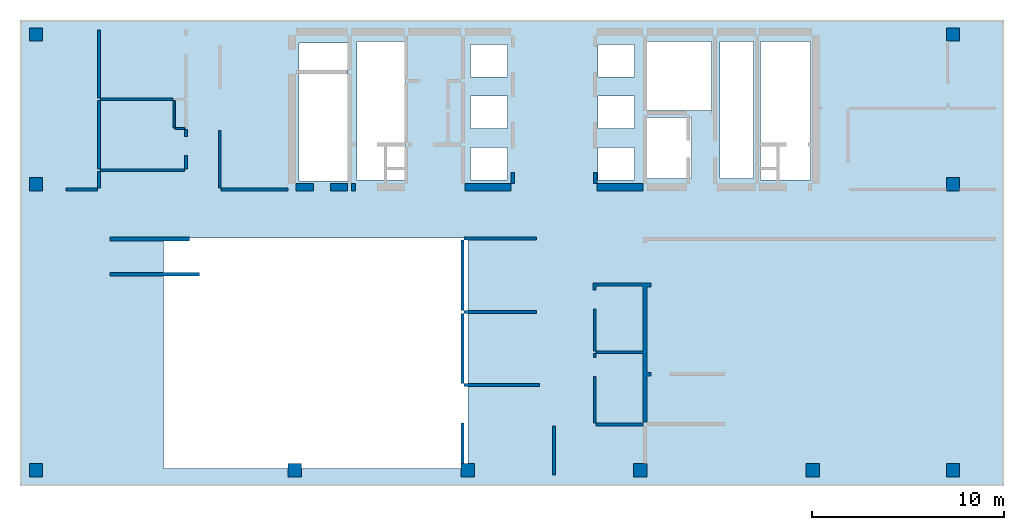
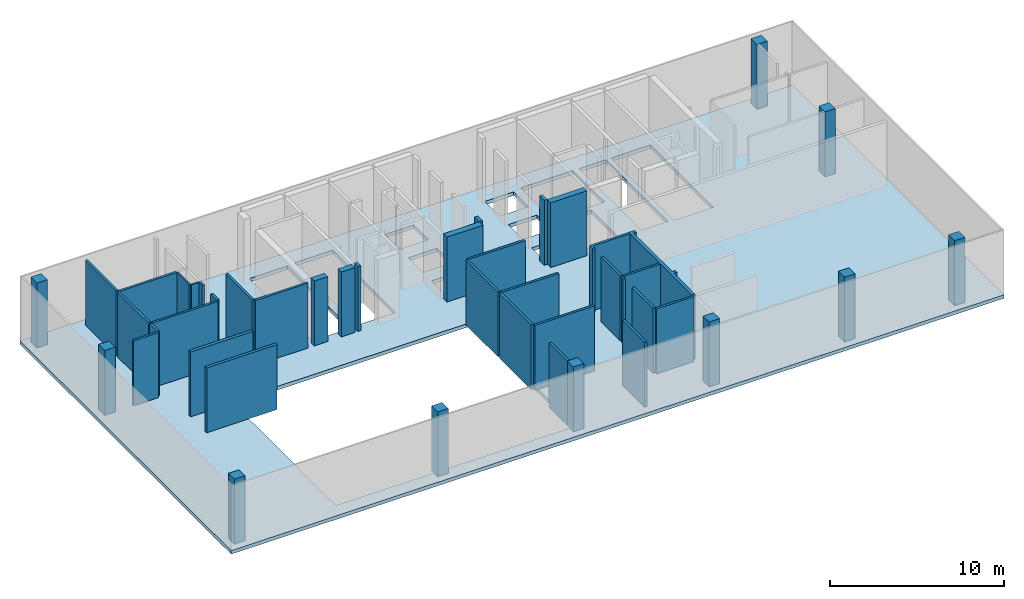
# One storey, part 1 of 4: 33 walls, 10 columns, 1 slab.
"""IFC4 building model written with IfcOpenShell, lengths in millimetres."""

from ifc_helpers import new_model, si_unit, frame, origin, place, context, project, spatial, triangles, element, save


model = new_model("IFC4")

# Units and contexts
model_context = context("Model", 3, precision=0.001, world=origin())
ifc_project = project(units=[si_unit("LENGTHUNIT", "METRE", prefix="MILLI"), si_unit("AREAUNIT", "SQUARE_METRE"), si_unit("VOLUMEUNIT", "CUBIC_METRE")], contexts=[model_context])

# Site, building, storey
site_placement = place(None, origin())
site = spatial("IfcSite", under=ifc_project, at=site_placement, Name="Site", CompositionType="ELEMENT")
building_placement = place(site_placement, origin())
building = spatial("IfcBuilding", under=site, at=building_placement, Name="INNOCEAN", CompositionType="ELEMENT")
storey_placement = place(building_placement, frame((0.0, 0.0, 15800.0)))
storey = spatial("IfcBuildingStorey", under=building, at=storey_placement, Name="F04", CompositionType="ELEMENT", Elevation=15800.0)

# Columns
column_1_placement = place(storey_placement, origin())
element("IfcColumn", 1, at=column_1_placement, inside=storey, Name="F04_Columns_F04_001", context=model_context, shape_type="Tessellation", body=[
    triangles([(40114.8, 2023.7, 0.0), (40114.8, 2722.3, 4550.0), (40114.8, 2722.3, 0.0), (40114.8, 2023.7, 4550.0), (40813.0, 2722.3, 4550.0), (40813.0, 2023.7, 0.0), (40813.0, 2722.3, 0.0), (40813.0, 2023.7, 4550.0)], [[1, 2, 3], [1, 4, 2], [5, 6, 7], [8, 6, 5], [6, 8, 1], [1, 8, 4], [5, 7, 3], [5, 3, 2], [3, 7, 1], [1, 7, 6], [5, 2, 4], [5, 4, 8]], closed=True),
])
column_2_placement = place(storey_placement, origin())
element("IfcColumn", 2, at=column_2_placement, inside=storey, Name="F04_Columns_F04_002", context=model_context, shape_type="Tessellation", body=[
    triangles([(47413.4, 24721.0, 0.0), (47413.4, 24721.0, 4550.0), (47413.4, 25419.5, 0.0), (47413.4, 25419.5, 4550.0), (48111.6, 24721.0, 4550.0), (48111.6, 24721.0, 0.0), (48111.6, 25419.5, 0.0), (48111.6, 25419.5, 4550.0)], [[1, 2, 3], [3, 2, 4], [5, 6, 7], [5, 7, 8], [6, 5, 1], [1, 5, 2], [8, 7, 3], [8, 3, 4], [1, 3, 6], [3, 7, 6], [4, 2, 5], [8, 4, 5]], closed=True),
])
column_3_placement = place(storey_placement, origin())
element("IfcColumn", 3, at=column_3_placement, inside=storey, Name="F04_Columns_F04_003", context=model_context, shape_type="Tessellation", body=[
    triangles([(47413.4, 16922.4, 0.0), (47413.4, 16922.4, 4550.0), (47413.4, 17620.9, 0.0), (47413.4, 17620.9, 4550.0), (48111.6, 16922.4, 4550.0), (48111.6, 16922.4, 0.0), (48111.6, 17620.9, 0.0), (48111.6, 17620.9, 4550.0)], [[1, 2, 3], [3, 2, 4], [5, 6, 7], [5, 7, 8], [6, 5, 1], [1, 5, 2], [8, 7, 3], [8, 3, 4], [1, 3, 6], [3, 7, 6], [4, 2, 5], [8, 4, 5]], closed=True),
])
column_4_placement = place(storey_placement, origin())
element("IfcColumn", 4, at=column_4_placement, inside=storey, Name="F04_Columns_F04_004", context=model_context, shape_type="Tessellation", body=[
    triangles([(13129.0, 2023.7, 0.0), (13129.0, 2722.3, 4550.0), (13129.0, 2722.3, 0.0), (13129.0, 2023.7, 4550.0), (13827.2, 2722.3, 4550.0), (13827.2, 2023.7, 0.0), (13827.2, 2722.3, 0.0), (13827.2, 2023.7, 4550.0)], [[1, 2, 3], [1, 4, 2], [5, 6, 7], [8, 6, 5], [6, 8, 1], [1, 8, 4], [5, 7, 3], [5, 3, 2], [3, 7, 1], [1, 7, 6], [5, 2, 4], [5, 4, 8]], closed=True),
])
column_5_placement = place(storey_placement, origin())
element("IfcColumn", 5, at=column_5_placement, inside=storey, Name="F04_Columns_F04_005", context=model_context, shape_type="Tessellation", body=[
    triangles([(47413.4, 2023.7, 0.0), (47413.4, 2722.3, 4550.0), (47413.4, 2722.3, 0.0), (47413.4, 2023.7, 4550.0), (48111.6, 2722.3, 4550.0), (48111.6, 2023.7, 0.0), (48111.6, 2722.3, 0.0), (48111.6, 2023.7, 4550.0)], [[1, 2, 3], [1, 4, 2], [5, 6, 7], [8, 6, 5], [6, 8, 1], [1, 8, 4], [5, 7, 3], [5, 3, 2], [3, 7, 1], [1, 7, 6], [5, 2, 4], [5, 4, 8]], closed=True),
])
column_6_placement = place(storey_placement, origin())
element("IfcColumn", 6, at=column_6_placement, inside=storey, Name="F04_Columns_F04_006", context=model_context, shape_type="Tessellation", body=[
    triangles([(-363.9, 2023.7, 0.0), (-363.9, 2722.3, 4550.0), (-363.9, 2722.3, 0.0), (-363.9, 2023.7, 4550.0), (334.3, 2722.3, 4550.0), (334.3, 2023.7, 0.0), (334.3, 2722.3, 0.0), (334.3, 2023.7, 4550.0)], [[1, 2, 3], [1, 4, 2], [5, 6, 7], [8, 6, 5], [6, 8, 1], [1, 8, 4], [5, 7, 3], [5, 3, 2], [3, 7, 1], [1, 7, 6], [5, 2, 4], [5, 4, 8]], closed=True),
])
column_7_placement = place(storey_placement, origin())
element("IfcColumn", 7, at=column_7_placement, inside=storey, Name="F04_Columns_F04_007", context=model_context, shape_type="Tessellation", body=[
    triangles([(-363.9, 24721.0, 0.0), (-363.9, 24721.0, 4550.0), (-363.9, 25419.5, 0.0), (-363.9, 25419.5, 4550.0), (334.3, 24721.0, 4550.0), (334.3, 24721.0, 0.0), (334.3, 25419.5, 0.0), (334.3, 25419.5, 4550.0)], [[1, 2, 3], [3, 2, 4], [5, 6, 7], [5, 7, 8], [6, 5, 1], [1, 5, 2], [8, 7, 3], [8, 3, 4], [3, 7, 1], [1, 7, 6], [8, 4, 2], [8, 2, 5]], closed=True),
])
column_8_placement = place(storey_placement, origin())
element("IfcColumn", 8, at=column_8_placement, inside=storey, Name="F04_Columns_F04_008", context=model_context, shape_type="Tessellation", body=[
    triangles([(31128.0, 2023.7, 0.0), (31128.0, 2722.3, 4550.0), (31128.0, 2722.3, 0.0), (31128.0, 2023.7, 4550.0), (31826.2, 2722.3, 4550.0), (31826.2, 2023.7, 0.0), (31826.2, 2722.3, 0.0), (31826.2, 2023.7, 4550.0)], [[1, 2, 3], [1, 4, 2], [5, 6, 7], [8, 6, 5], [6, 8, 1], [1, 8, 4], [5, 7, 3], [5, 3, 2], [3, 7, 1], [1, 7, 6], [5, 2, 4], [5, 4, 8]], closed=True),
])
column_9_placement = place(storey_placement, origin())
element("IfcColumn", 9, at=column_9_placement, inside=storey, Name="F04_Columns_F04_009", context=model_context, shape_type="Tessellation", body=[
    triangles([(22128.5, 2023.7, 0.0), (22128.5, 2722.3, 4550.0), (22128.5, 2722.3, 0.0), (22128.5, 2023.7, 4550.0), (22826.7, 2722.3, 4550.0), (22826.7, 2023.7, 0.0), (22826.7, 2722.3, 0.0), (22826.7, 2023.7, 4550.0)], [[1, 2, 3], [1, 4, 2], [5, 6, 7], [8, 6, 5], [6, 8, 1], [1, 8, 4], [5, 7, 3], [5, 3, 2], [3, 7, 1], [1, 7, 6], [5, 2, 4], [5, 4, 8]], closed=True),
])
column_10_placement = place(storey_placement, origin())
element("IfcColumn", 10, at=column_10_placement, inside=storey, Name="F04_Columns_F04_010", context=model_context, shape_type="Tessellation", body=[
    triangles([(-363.9, 16922.4, 0.0), (-363.9, 16922.4, 4550.0), (-363.9, 17620.9, 0.0), (-363.9, 17620.9, 4550.0), (334.3, 16922.4, 4550.0), (334.3, 16922.4, 0.0), (334.3, 17620.9, 0.0), (334.3, 17620.9, 4550.0)], [[1, 2, 3], [3, 2, 4], [5, 6, 7], [5, 7, 8], [6, 5, 1], [1, 5, 2], [8, 7, 3], [8, 3, 4], [3, 7, 1], [1, 7, 6], [8, 4, 2], [8, 2, 5]], closed=True),
])

# Slab
slab_placement = place(storey_placement, origin())
element("IfcSlab", 11, at=slab_placement, inside=storey, Name="F04_Slab_F04_001", context=model_context, shape_type="Tessellation", body=[
    triangles([(-846.215139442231, 25825.974025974, 0.0), (50420.3187250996, 25825.974025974, -250.0), (-846.215139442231, 25825.974025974, -250.0), (50420.3187250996, 25825.974025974, 0.0), (-846.215139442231, 1552.38095238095, 0.0), (-846.215139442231, 1552.38095238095, -250.0), (50420.3187250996, 1552.38095238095, 0.0), (50420.3187250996, 1552.38095238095, -250.0), (22495.219123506, 14465.367965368, 0.0), (6628.68525896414, 14465.367965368, 0.0), (6628.68525896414, 14465.367965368, -250.0), (22495.219123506, 14465.367965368, -250.0), (22495.219123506, 2469.69696969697, 0.0), (22495.219123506, 2469.69696969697, -250.0), (6628.68525896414, 2469.69696969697, -250.0), (6628.68525896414, 2469.69696969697, 0.0), (31168.9243027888, 19193.0735930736, 0.0), (29264.9402390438, 19193.0735930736, 0.0), (29264.9402390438, 19193.0735930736, -250.0), (31168.9243027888, 19193.0735930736, -250.0), (29264.9402390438, 17499.5670995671, 0.0), (29264.9402390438, 17499.5670995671, -250.0), (31168.9243027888, 17499.5670995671, 0.0), (31168.9243027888, 17499.5670995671, -250.0), (24540.2390438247, 19193.0735930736, -250.0), (22636.2549800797, 19193.0735930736, 0.0), (22636.2549800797, 19193.0735930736, -250.0), (24540.2390438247, 19193.0735930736, 0.0), (22636.2549800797, 17499.5670995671, 0.0), (22636.2549800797, 17499.5670995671, -250.0), (24540.2390438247, 17499.5670995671, 0.0), (24540.2390438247, 17499.5670995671, -250.0), (40336.2549800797, 24696.9696969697, -250.0), (37727.0916334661, 24696.9696969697, 0.0), (37727.0916334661, 24696.9696969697, -250.0), (40336.2549800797, 24696.9696969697, 0.0), (37727.0916334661, 17499.5670995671, 0.0), (37727.0916334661, 17499.5670995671, -250.0), (40336.2549800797, 17499.5670995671, 0.0), (40336.2549800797, 17499.5670995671, -250.0), (37374.5019920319, 24696.9696969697, 0.0), (35611.5537848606, 24696.9696969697, 0.0), (35611.5537848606, 24696.9696969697, -250.0), (37374.5019920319, 24696.9696969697, -250.0), (35611.5537848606, 17570.1298701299, 0.0), (35611.5537848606, 17570.1298701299, -250.0), (37374.5019920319, 17570.1298701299, 0.0), (37374.5019920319, 17570.1298701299, -250.0), (34130.6772908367, 20745.4545454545, -250.0), (31733.0677290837, 20745.4545454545, 0.0), (31733.0677290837, 20745.4545454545, -250.0), (34130.6772908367, 20745.4545454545, 0.0), (31733.0677290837, 17570.1298701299, 0.0), (31733.0677290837, 17570.1298701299, -250.0), (34130.6772908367, 17570.1298701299, 0.0), (34130.6772908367, 17570.1298701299, -250.0), (35188.4462151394, 24696.9696969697, 0.0), (31733.0677290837, 24696.9696969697, 0.0), (31733.0677290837, 24696.9696969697, -250.0), (35188.4462151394, 24696.9696969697, -250.0), (31733.0677290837, 21098.2683982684, 0.0), (31733.0677290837, 21098.2683982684, -250.0), (35188.4462151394, 21098.2683982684, 0.0), (35188.4462151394, 21098.2683982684, -250.0), (31168.9243027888, 21874.4588744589, 0.0), (29264.9402390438, 21874.4588744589, 0.0), (29264.9402390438, 21874.4588744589, -250.0), (31168.9243027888, 21874.4588744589, -250.0), (29264.9402390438, 20180.9523809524, 0.0), (29264.9402390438, 20180.9523809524, -250.0), (31168.9243027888, 20180.9523809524, 0.0), (31168.9243027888, 20180.9523809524, -250.0), (24540.2390438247, 21874.4588744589, -250.0), (22636.2549800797, 21874.4588744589, 0.0), (22636.2549800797, 21874.4588744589, -250.0), (24540.2390438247, 21874.4588744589, 0.0), (22636.2549800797, 20180.9523809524, 0.0), (22636.2549800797, 20180.9523809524, -250.0), (24540.2390438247, 20180.9523809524, 0.0), (24540.2390438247, 20180.9523809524, -250.0), (31168.9243027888, 24555.8441558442, 0.0), (29264.9402390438, 24555.8441558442, 0.0), (29264.9402390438, 24555.8441558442, -250.0), (31168.9243027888, 24555.8441558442, -250.0), (29264.9402390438, 22862.3376623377, 0.0), (29264.9402390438, 22862.3376623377, -250.0), (31168.9243027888, 22862.3376623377, 0.0), (31168.9243027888, 22862.3376623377, -250.0), (24540.2390438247, 24555.8441558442, -250.0), (22636.2549800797, 24555.8441558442, 0.0), (22636.2549800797, 24555.8441558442, -250.0), (24540.2390438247, 24555.8441558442, 0.0), (22636.2549800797, 22862.3376623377, 0.0), (22636.2549800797, 22862.3376623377, -250.0), (24540.2390438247, 22862.3376623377, 0.0), (24540.2390438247, 22862.3376623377, -250.0), (19251.3944223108, 24696.9696969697, 0.0), (16712.7490039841, 24696.9696969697, 0.0), (16712.7490039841, 24696.9696969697, -250.0), (19251.3944223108, 24696.9696969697, -250.0), (16712.7490039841, 17499.5670995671, 0.0), (16712.7490039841, 17499.5670995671, -250.0), (19251.3944223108, 17499.5670995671, 0.0), (19251.3944223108, 17499.5670995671, -250.0), (16219.1235059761, 24626.4069264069, 0.0), (13680.4780876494, 24626.4069264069, 0.0), (13680.4780876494, 24626.4069264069, -250.0), (16219.1235059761, 24626.4069264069, -250.0), (13680.4780876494, 17429.0043290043, 0.0), (13680.4780876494, 17429.0043290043, -250.0), (16219.1235059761, 17429.0043290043, 0.0), (16219.1235059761, 17429.0043290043, -250.0)], [[1, 2, 3], [1, 4, 2], [5, 1, 6], [6, 1, 3], [4, 7, 2], [2, 7, 8], [7, 6, 8], [7, 5, 6], [9, 10, 11], [9, 11, 12], [13, 9, 12], [13, 12, 14], [15, 13, 14], [16, 13, 15], [10, 16, 15], [10, 15, 11], [17, 18, 19], [17, 19, 20], [18, 21, 22], [18, 22, 19], [23, 17, 20], [23, 20, 24], [21, 23, 24], [21, 24, 22], [25, 26, 27], [28, 26, 25], [26, 29, 30], [26, 30, 27], [31, 28, 25], [31, 25, 32], [30, 31, 32], [29, 31, 30], [33, 34, 35], [36, 34, 33], [34, 37, 38], [34, 38, 35], [39, 36, 33], [39, 33, 40], [38, 39, 40], [37, 39, 38], [41, 42, 43], [41, 43, 44], [42, 45, 46], [42, 46, 43], [47, 41, 44], [47, 44, 48], [45, 47, 48], [45, 48, 46], [49, 50, 51], [52, 50, 49], [50, 53, 54], [50, 54, 51], [55, 52, 49], [55, 49, 56], [54, 55, 56], [53, 55, 54], [57, 58, 59], [57, 59, 60], [58, 61, 62], [58, 62, 59], [63, 57, 60], [63, 60, 64], [61, 63, 64], [61, 64, 62], [65, 66, 67], [65, 67, 68], [66, 69, 70], [66, 70, 67], [71, 65, 68], [71, 68, 72], [69, 71, 72], [69, 72, 70], [73, 74, 75], [76, 74, 73], [74, 77, 78], [74, 78, 75], [79, 76, 73], [79, 73, 80], [78, 79, 80], [77, 79, 78], [81, 82, 83], [81, 83, 84], [82, 85, 86], [82, 86, 83], [87, 81, 84], [87, 84, 88], [85, 87, 88], [85, 88, 86], [89, 90, 91], [92, 90, 89], [90, 93, 94], [90, 94, 91], [95, 92, 89], [95, 89, 96], [94, 95, 96], [93, 95, 94], [97, 98, 99], [97, 99, 100], [98, 101, 102], [98, 102, 99], [103, 97, 100], [103, 100, 104], [101, 103, 104], [101, 104, 102], [105, 106, 107], [105, 107, 108], [106, 109, 110], [106, 110, 107], [111, 105, 108], [111, 108, 112], [109, 111, 112], [109, 112, 110], [4, 39, 7], [39, 37, 7], [37, 13, 7], [47, 45, 37], [37, 45, 13], [45, 55, 13], [4, 36, 39], [55, 53, 13], [53, 23, 13], [45, 52, 55], [63, 52, 45], [53, 17, 23], [23, 21, 13], [17, 50, 71], [52, 61, 50], [50, 61, 71], [42, 57, 63], [71, 18, 17], [61, 65, 71], [71, 69, 18], [61, 87, 65], [21, 9, 13], [21, 31, 9], [58, 81, 87], [87, 85, 65], [65, 85, 66], [18, 28, 21], [69, 28, 18], [21, 28, 31], [31, 29, 9], [58, 82, 81], [69, 79, 28], [66, 79, 69], [66, 76, 79], [28, 77, 26], [79, 77, 28], [26, 103, 29], [29, 103, 9], [77, 103, 26], [85, 95, 66], [66, 95, 76], [77, 74, 103], [95, 74, 76], [85, 92, 95], [82, 92, 85], [95, 93, 74], [103, 101, 9], [101, 111, 9], [16, 5, 13], [90, 97, 93], [74, 97, 103], [93, 97, 74], [16, 10, 5], [98, 105, 101], [101, 105, 111], [98, 106, 105], [109, 106, 10], [10, 1, 5], [106, 1, 10], [4, 1, 36], [36, 1, 34], [34, 1, 41], [41, 1, 42], [42, 1, 57], [57, 1, 58], [58, 1, 82], [82, 1, 92], [92, 1, 90], [90, 1, 97], [97, 1, 98], [98, 1, 106], [5, 7, 13], [10, 9, 109], [109, 9, 111], [45, 42, 63], [41, 47, 34], [34, 47, 37], [53, 50, 17], [61, 58, 87], [63, 61, 52], [40, 2, 8], [38, 40, 8], [14, 38, 8], [46, 48, 38], [46, 38, 14], [56, 46, 14], [33, 2, 40], [54, 56, 14], [24, 54, 14], [49, 46, 56], [49, 64, 46], [20, 54, 24], [22, 24, 14], [51, 20, 72], [62, 49, 51], [62, 51, 72], [60, 43, 64], [19, 72, 20], [68, 62, 72], [70, 72, 19], [88, 62, 68], [12, 22, 14], [32, 22, 12], [84, 59, 88], [86, 88, 68], [86, 68, 67], [25, 19, 22], [25, 70, 19], [25, 22, 32], [30, 32, 12], [83, 59, 84], [80, 70, 25], [80, 67, 70], [73, 67, 80], [78, 25, 27], [78, 80, 25], [104, 27, 30], [104, 30, 12], [104, 78, 27], [96, 86, 67], [96, 67, 73], [75, 78, 104], [75, 96, 73], [89, 86, 96], [89, 83, 86], [94, 96, 75], [102, 104, 12], [112, 102, 12], [6, 15, 14], [100, 91, 94], [100, 75, 104], [100, 94, 75], [11, 15, 6], [108, 99, 102], [108, 102, 112], [107, 99, 108], [107, 110, 11], [3, 11, 6], [3, 107, 11], [3, 2, 33], [3, 33, 35], [3, 35, 44], [3, 44, 43], [3, 43, 60], [3, 60, 59], [3, 59, 83], [3, 83, 89], [3, 89, 91], [3, 91, 100], [3, 100, 99], [3, 99, 107], [8, 6, 14], [12, 11, 110], [12, 110, 112], [43, 46, 64], [48, 44, 35], [48, 35, 38], [51, 54, 20], [59, 62, 88], [62, 64, 49]], closed=True),
])

# Walls
wall_1_placement = place(storey_placement, origin())
element("IfcWall", 12, at=wall_1_placement, inside=storey, Name="F04_Walls_F04_001", context=model_context, shape_type="Tessellation", body=[
    triangles([(8508.7, 12476.9, 0.0), (8508.7, 12667.4, 0.0), (8508.7, 12667.4, 4550.0), (8508.7, 12476.9, 4550.0), (3837.6, 12476.9, 0.0), (3837.6, 12476.9, 4550.0), (3837.6, 12667.4, 0.0), (3837.6, 12667.4, 4550.0)], [[1, 2, 3], [1, 3, 4], [5, 1, 4], [5, 4, 6], [7, 5, 6], [7, 6, 8], [2, 7, 8], [2, 8, 3], [5, 2, 1], [7, 2, 5], [3, 6, 4], [3, 8, 6]], closed=True),
])
wall_2_placement = place(storey_placement, origin())
element("IfcWall", 13, at=wall_2_placement, inside=storey, Name="F04_Walls_F04_002", context=model_context, shape_type="Tessellation", body=[
    triangles([(7975.6, 14318.6, 0.0), (7975.6, 14521.8, 0.0), (7975.6, 14521.8, 4550.0), (7975.6, 14318.6, 4550.0), (3837.6, 14318.6, 0.0), (3837.6, 14318.6, 4550.0), (3837.6, 14521.8, 0.0), (3837.6, 14521.8, 4550.0)], [[1, 2, 3], [1, 3, 4], [5, 1, 4], [5, 4, 6], [7, 5, 6], [7, 6, 8], [2, 7, 8], [2, 8, 3], [7, 2, 1], [7, 1, 5], [3, 8, 4], [4, 8, 6]], closed=True),
])
wall_3_placement = place(storey_placement, origin())
element("IfcWall", 14, at=wall_3_placement, inside=storey, Name="F04_Walls_F04_003", context=model_context, shape_type="Tessellation", body=[
    triangles([(3190.2, 16922.4, 0.0), (3190.2, 17074.8, 0.0), (3190.2, 17074.8, 4550.0), (3190.2, 16922.4, 4550.0), (1552.8, 16922.4, 0.0), (1552.8, 16922.4, 4550.0), (1552.8, 17074.8, 0.0), (1552.8, 17074.8, 4550.0)], [[1, 2, 3], [1, 3, 4], [5, 1, 4], [5, 4, 6], [7, 5, 6], [7, 6, 8], [2, 7, 8], [2, 8, 3], [5, 2, 1], [7, 2, 5], [3, 6, 4], [3, 8, 6]], closed=True),
])
wall_4_placement = place(storey_placement, origin())
element("IfcWall", 15, at=wall_4_placement, inside=storey, Name="F04_Walls_F04_004", context=model_context, shape_type="Tessellation", body=[
    triangles([(13129.0, 16922.4, 0.0), (13129.0, 17074.8, 0.0), (13129.0, 17074.8, 4550.0), (13129.0, 16922.4, 4550.0), (9638.4, 16922.4, 0.0), (9638.4, 16922.4, 4550.0), (9638.4, 17074.8, 0.0), (9638.4, 17074.8, 4550.0)], [[1, 2, 3], [1, 3, 4], [5, 1, 4], [5, 4, 6], [7, 5, 6], [7, 6, 8], [2, 7, 8], [2, 8, 3], [7, 2, 1], [7, 1, 5], [3, 8, 4], [4, 8, 6]], closed=True),
])
wall_5_placement = place(storey_placement, origin())
element("IfcWall", 16, at=wall_5_placement, inside=storey, Name="F04_Walls_F04_005", context=model_context, shape_type="Tessellation", body=[
    triangles([(14436.4, 16922.4, 0.0), (14436.4, 17316.1, 0.0), (14436.4, 17316.1, 4550.0), (14436.4, 16922.4, 4550.0), (13535.2, 16922.4, 4550.0), (13535.2, 16922.4, 0.0), (13535.2, 17316.1, 0.0), (13535.2, 17316.1, 4550.0)], [[1, 2, 3], [1, 3, 4], [1, 4, 5], [6, 1, 5], [7, 6, 5], [7, 5, 8], [7, 8, 3], [2, 7, 3], [7, 2, 1], [7, 1, 6], [3, 8, 4], [4, 8, 5]], closed=True),
])
wall_6_placement = place(storey_placement, origin())
element("IfcWall", 17, at=wall_6_placement, inside=storey, Name="F04_Walls_F04_006", context=model_context, shape_type="Tessellation", body=[
    triangles([(16226.2, 16922.4, 0.0), (16226.2, 17316.1, 0.0), (16226.2, 17316.1, 4550.0), (16226.2, 16922.4, 4550.0), (15337.6, 16922.4, 0.0), (15337.6, 16922.4, 4550.0), (15337.6, 17316.1, 0.0), (15337.6, 17316.1, 4550.0)], [[1, 2, 3], [1, 3, 4], [5, 1, 4], [5, 4, 6], [7, 5, 6], [7, 6, 8], [2, 7, 8], [2, 8, 3], [7, 2, 1], [7, 1, 5], [3, 8, 4], [4, 8, 6]], closed=True),
])
wall_7_placement = place(storey_placement, origin())
element("IfcWall", 18, at=wall_7_placement, inside=storey, Name="F04_Walls_F04_007", context=model_context, shape_type="Tessellation", body=[
    triangles([(16632.4, 16922.4, 0.0), (16632.4, 17316.1, 0.0), (16632.4, 17316.1, 4550.0), (16632.4, 16922.4, 4550.0), (16429.3, 16922.4, 0.0), (16429.3, 16922.4, 4550.0), (16429.3, 17316.1, 0.0), (16429.3, 17316.1, 4550.0)], [[1, 2, 3], [1, 3, 4], [5, 1, 4], [5, 4, 6], [7, 5, 6], [7, 6, 8], [2, 7, 8], [2, 8, 3], [7, 2, 1], [7, 1, 5], [3, 8, 4], [4, 8, 6]], closed=True),
])
wall_8_placement = place(storey_placement, origin())
element("IfcWall", 19, at=wall_8_placement, inside=storey, Name="F04_Walls_F04_008", context=model_context, shape_type="Tessellation", body=[
    triangles([(3342.5, 17074.8, 0.0), (3342.5, 17925.8, 0.0), (3342.5, 17925.8, 4550.0), (3342.5, 17074.8, 4550.0), (3190.2, 17074.8, 0.0), (3190.2, 17074.8, 4550.0), (3190.2, 17925.8, 0.0), (3190.2, 17925.8, 4550.0)], [[1, 2, 3], [1, 3, 4], [5, 1, 4], [5, 4, 6], [7, 5, 6], [7, 6, 8], [2, 7, 8], [2, 8, 3], [7, 2, 1], [7, 1, 5], [3, 8, 4], [4, 8, 6]], closed=True),
])
wall_9_placement = place(storey_placement, origin())
element("IfcWall", 20, at=wall_9_placement, inside=storey, Name="F04_Walls_F04_009", context=model_context, shape_type="Tessellation", body=[
    triangles([(7734.4, 17925.8, 0.0), (7734.4, 18065.5, 0.0), (7734.4, 18065.5, 4550.0), (7734.4, 17925.8, 4550.0), (3342.5, 17925.8, 4550.0), (3342.5, 17925.8, 0.0), (3342.5, 18065.5, 0.0), (3342.5, 18065.5, 4550.0)], [[1, 2, 3], [1, 3, 4], [1, 4, 5], [6, 1, 5], [7, 6, 5], [7, 5, 8], [7, 8, 3], [2, 7, 3], [6, 2, 1], [7, 2, 6], [3, 5, 4], [3, 8, 5]], closed=True),
])
wall_10_placement = place(storey_placement, origin())
element("IfcWall", 21, at=wall_10_placement, inside=storey, Name="F04_Walls_F04_011", context=model_context, shape_type="Tessellation", body=[
    triangles([(7886.7, 18065.5, 0.0), (7886.7, 18776.8, 0.0), (7886.7, 18776.8, 4550.0), (7886.7, 18065.5, 4550.0), (7734.4, 18065.5, 0.0), (7734.4, 18065.5, 4550.0), (7734.4, 18776.8, 0.0), (7734.4, 18776.8, 4550.0)], [[1, 2, 3], [1, 3, 4], [5, 1, 4], [5, 4, 6], [7, 5, 6], [7, 6, 8], [2, 7, 8], [2, 8, 3], [2, 1, 5], [7, 2, 5], [4, 3, 6], [3, 8, 6]], closed=True),
])
wall_11_placement = place(storey_placement, origin())
element("IfcWall", 22, at=wall_11_placement, inside=storey, Name="F04_Walls_F04_012", context=model_context, shape_type="Tessellation", body=[
    triangles([(9638.4, 17074.8, 0.0), (9638.4, 20072.3, 0.0), (9638.4, 20072.3, 4550.0), (9638.4, 17074.8, 4550.0), (9486.1, 17074.8, 0.0), (9486.1, 17074.8, 4550.0), (9486.1, 20072.3, 0.0), (9486.1, 20072.3, 4550.0)], [[1, 2, 3], [1, 3, 4], [5, 1, 4], [5, 4, 6], [7, 5, 6], [7, 6, 8], [2, 7, 8], [2, 8, 3], [7, 2, 1], [7, 1, 5], [3, 8, 4], [4, 8, 6]], closed=True),
])
wall_12_placement = place(storey_placement, origin())
element("IfcWall", 23, at=wall_12_placement, inside=storey, Name="F04_Walls_F04_013", context=model_context, shape_type="Tessellation", body=[
    triangles([(3342.5, 18065.5, 0.0), (3342.5, 21621.8, 0.0), (3342.5, 21621.8, 4550.0), (3342.5, 18065.5, 4550.0), (3190.2, 18065.5, 0.0), (3190.2, 18065.5, 4550.0), (3190.2, 21621.8, 0.0), (3190.2, 21621.8, 4550.0)], [[1, 2, 3], [1, 3, 4], [5, 1, 4], [5, 4, 6], [7, 5, 6], [7, 6, 8], [2, 7, 8], [2, 8, 3], [7, 2, 1], [7, 1, 5], [3, 8, 4], [4, 8, 6]], closed=True),
])
wall_13_placement = place(storey_placement, origin())
element("IfcWall", 24, at=wall_13_placement, inside=storey, Name="F04_Walls_F04_014", context=model_context, shape_type="Tessellation", body=[
    triangles([(7886.7, 20123.1, 0.0), (7886.7, 20123.1, 4550.0), (7886.7, 19767.5, 4550.0), (7886.7, 19767.5, 0.0), (7734.4, 19767.5, 0.0), (7734.4, 19767.5, 4550.0), (7734.4, 20123.1, 4550.0), (7734.4, 20123.1, 0.0)], [[1, 2, 3], [4, 1, 3], [5, 4, 3], [5, 3, 6], [5, 6, 7], [8, 5, 7], [1, 8, 7], [1, 7, 2], [1, 4, 5], [8, 1, 5], [3, 2, 6], [2, 7, 6]], closed=True),
])
wall_14_placement = place(storey_placement, origin())
element("IfcWall", 25, at=wall_14_placement, inside=storey, Name="F04_Walls_F04_016", context=model_context, shape_type="Tessellation", body=[
    triangles([(7734.4, 20224.7, 0.0), (7734.4, 20224.7, 4550.0), (7734.4, 20123.1, 4550.0), (7734.4, 20123.1, 0.0), (7239.4, 20123.1, 4550.0), (7239.4, 20123.1, 0.0), (7239.4, 20224.7, 4550.0), (7239.4, 20224.7, 0.0)], [[1, 2, 3], [4, 1, 3], [4, 3, 5], [6, 4, 5], [6, 5, 7], [8, 6, 7], [8, 7, 2], [1, 8, 2], [8, 1, 4], [8, 4, 6], [2, 7, 3], [3, 7, 5]], closed=True),
])
wall_15_placement = place(storey_placement, origin())
element("IfcWall", 26, at=wall_15_placement, inside=storey, Name="F04_Walls_F04_017", context=model_context, shape_type="Tessellation", body=[
    triangles([(7239.4, 20224.7, 0.0), (7239.4, 21621.8, 0.0), (7239.4, 21621.8, 4550.0), (7239.4, 20224.7, 4550.0), (7137.8, 20224.7, 0.0), (7137.8, 20224.7, 4550.0), (7137.8, 21621.8, 0.0), (7137.8, 21621.8, 4550.0)], [[1, 2, 3], [1, 3, 4], [5, 1, 4], [5, 4, 6], [7, 5, 6], [7, 6, 8], [2, 7, 8], [2, 8, 3], [7, 2, 1], [7, 1, 5], [3, 8, 4], [4, 8, 6]], closed=True),
])
wall_16_placement = place(storey_placement, origin())
element("IfcWall", 27, at=wall_16_placement, inside=storey, Name="F04_Walls_F04_019", context=model_context, shape_type="Tessellation", body=[
    triangles([(7137.8, 21621.8, 0.0), (7137.8, 21774.3, 0.0), (7137.8, 21774.3, 4550.0), (7137.8, 21621.8, 4550.0), (3342.5, 21621.8, 0.0), (3342.5, 21621.8, 4550.0), (3342.5, 21774.3, 0.0), (3342.5, 21774.3, 4550.0)], [[1, 2, 3], [1, 3, 4], [5, 1, 4], [5, 4, 6], [7, 5, 6], [7, 6, 8], [2, 7, 8], [2, 8, 3], [7, 2, 1], [7, 1, 5], [3, 8, 4], [4, 8, 6]], closed=True),
])
wall_17_placement = place(storey_placement, origin())
element("IfcWall", 28, at=wall_17_placement, inside=storey, Name="F04_Walls_F04_024", context=model_context, shape_type="Tessellation", body=[
    triangles([(3342.5, 21774.3, 0.0), (3342.5, 25317.9, 0.0), (3342.5, 25317.9, 4550.0), (3342.5, 21774.3, 4550.0), (3190.2, 21774.3, 0.0), (3190.2, 21774.3, 4550.0), (3190.2, 25317.9, 0.0), (3190.2, 25317.9, 4550.0)], [[1, 2, 3], [1, 3, 4], [5, 1, 4], [5, 4, 6], [7, 5, 6], [7, 6, 8], [2, 7, 8], [2, 8, 3], [7, 2, 1], [7, 1, 5], [3, 8, 4], [4, 8, 6]], closed=True),
])
wall_18_placement = place(storey_placement, origin())
element("IfcWall", 29, at=wall_18_placement, inside=storey, Name="F04_Walls_F04_030", context=model_context, shape_type="Tessellation", body=[
    triangles([(22280.8, 4818.0, 0.0), (22280.8, 4818.0, 4550.0), (22280.8, 2722.3, 4550.0), (22280.8, 2722.3, 0.0), (22128.5, 2722.3, 0.0), (22128.5, 2722.3, 4550.0), (22128.5, 4818.0, 0.0), (22128.5, 4818.0, 4550.0)], [[1, 2, 3], [4, 1, 3], [5, 4, 3], [5, 3, 6], [7, 5, 6], [7, 6, 8], [1, 7, 8], [1, 8, 2], [7, 1, 4], [7, 4, 5], [2, 8, 3], [3, 8, 6]], closed=True),
])
wall_19_placement = place(storey_placement, origin())
element("IfcWall", 30, at=wall_19_placement, inside=storey, Name="F04_Walls_F04_031", context=model_context, shape_type="Tessellation", body=[
    triangles([(22280.8, 6875.6, 0.0), (22280.8, 6723.2, 0.0), (22280.8, 6723.2, 4550.0), (22280.8, 6875.6, 4550.0), (26228.4, 6875.6, 4550.0), (26228.4, 6875.6, 0.0), (26228.4, 6723.2, 0.0), (26228.4, 6723.2, 4550.0)], [[1, 2, 3], [1, 3, 4], [1, 4, 5], [6, 1, 5], [7, 6, 5], [7, 5, 8], [7, 8, 3], [2, 7, 3], [1, 6, 7], [1, 7, 2], [5, 4, 8], [8, 4, 3]], closed=True),
])
wall_20_placement = place(storey_placement, origin())
element("IfcWall", 31, at=wall_20_placement, inside=storey, Name="F04_Walls_F04_032", context=model_context, shape_type="Tessellation", body=[
    triangles([(22280.8, 10546.3, 0.0), (22280.8, 10546.3, 4550.0), (22280.8, 6875.6, 4550.0), (22280.8, 6875.6, 0.0), (22128.5, 6875.6, 0.0), (22128.5, 6875.6, 4550.0), (22128.5, 10546.3, 0.0), (22128.5, 10546.3, 4550.0)], [[1, 2, 3], [4, 1, 3], [5, 4, 3], [5, 3, 6], [7, 5, 6], [7, 6, 8], [1, 7, 8], [1, 8, 2], [7, 1, 4], [7, 4, 5], [2, 8, 3], [3, 8, 6]], closed=True),
])
wall_21_placement = place(storey_placement, origin())
element("IfcWall", 32, at=wall_21_placement, inside=storey, Name="F04_Walls_F04_033", context=model_context, shape_type="Tessellation", body=[
    triangles([(22280.8, 10698.7, 0.0), (22280.8, 10546.3, 0.0), (22280.8, 10546.3, 4550.0), (22280.8, 10698.7, 4550.0), (26076.1, 10698.7, 0.0), (26076.1, 10698.7, 4550.0), (26076.1, 10546.3, 0.0), (26076.1, 10546.3, 4550.0)], [[1, 2, 3], [1, 3, 4], [5, 1, 4], [5, 4, 6], [7, 5, 6], [7, 6, 8], [2, 7, 8], [2, 8, 3], [2, 5, 7], [1, 5, 2], [6, 3, 8], [6, 4, 3]], closed=True),
])
wall_22_placement = place(storey_placement, origin())
element("IfcWall", 33, at=wall_22_placement, inside=storey, Name="F04_Walls_F04_034", context=model_context, shape_type="Tessellation", body=[
    triangles([(22280.8, 10698.7, 0.0), (22280.8, 14369.4, 0.0), (22280.8, 14369.4, 4550.0), (22280.8, 10698.7, 4550.0), (22128.5, 10698.7, 0.0), (22128.5, 10698.7, 4550.0), (22128.5, 14369.4, 4550.0), (22128.5, 14369.4, 0.0)], [[1, 2, 3], [1, 3, 4], [5, 1, 4], [5, 4, 6], [5, 6, 7], [8, 5, 7], [2, 8, 7], [2, 7, 3], [8, 2, 1], [8, 1, 5], [3, 7, 4], [4, 7, 6]], closed=True),
])
wall_23_placement = place(storey_placement, origin())
element("IfcWall", 34, at=wall_23_placement, inside=storey, Name="F04_Walls_F04_035", context=model_context, shape_type="Tessellation", body=[
    triangles([(26076.1, 14521.8, 0.0), (26076.1, 14521.8, 4550.0), (26076.1, 14369.4, 4550.0), (26076.1, 14369.4, 0.0), (22280.8, 14369.4, 0.0), (22280.8, 14369.4, 4550.0), (22280.8, 14521.8, 4550.0), (22280.8, 14521.8, 0.0)], [[1, 2, 3], [4, 1, 3], [5, 4, 3], [5, 3, 6], [5, 6, 7], [8, 5, 7], [1, 8, 7], [1, 7, 2], [8, 1, 4], [8, 4, 5], [2, 7, 3], [3, 7, 6]], closed=True),
])
wall_24_placement = place(storey_placement, origin())
element("IfcWall", 35, at=wall_24_placement, inside=storey, Name="F04_Walls_F04_037", context=model_context, shape_type="Tessellation", body=[
    triangles([(22331.6, 17316.1, 0.0), (22331.6, 17316.1, 4550.0), (24730.6, 17316.1, 4550.0), (24730.6, 17316.1, 0.0), (24730.6, 16922.4, 0.0), (24730.6, 16922.4, 4550.0), (22331.6, 16922.4, 4550.0), (22331.6, 16922.4, 0.0)], [[1, 2, 3], [4, 1, 3], [5, 4, 3], [5, 3, 6], [5, 6, 7], [8, 5, 7], [1, 8, 7], [1, 7, 2], [1, 4, 5], [1, 5, 8], [3, 2, 6], [6, 2, 7]], closed=True),
])
wall_25_placement = place(storey_placement, origin())
element("IfcWall", 36, at=wall_25_placement, inside=storey, Name="F04_Walls_F04_038", context=model_context, shape_type="Tessellation", body=[
    triangles([(24921.0, 17316.1, 0.0), (24921.0, 17316.1, 4550.0), (24730.6, 17316.1, 4550.0), (24730.6, 17316.1, 0.0), (24730.6, 17875.0, 0.0), (24730.6, 17875.0, 4550.0), (24921.0, 17875.0, 4550.0), (24921.0, 17875.0, 0.0)], [[1, 2, 3], [4, 1, 3], [5, 4, 3], [5, 3, 6], [5, 6, 7], [8, 5, 7], [1, 8, 7], [1, 7, 2], [5, 1, 4], [5, 8, 1], [2, 6, 3], [7, 6, 2]], closed=True),
])
wall_26_placement = place(storey_placement, origin())
element("IfcWall", 37, at=wall_26_placement, inside=storey, Name="F04_Walls_F04_053", context=model_context, shape_type="Tessellation", body=[
    triangles([(27053.5, 2125.4, 0.0), (27053.5, 4665.6, 0.0), (27053.5, 4665.6, 4550.0), (27053.5, 2125.4, 4550.0), (26901.2, 2125.4, 0.0), (26901.2, 2125.4, 4550.0), (26901.2, 4665.6, 0.0), (26901.2, 4665.6, 4550.0)], [[1, 2, 3], [1, 3, 4], [5, 1, 4], [5, 4, 6], [7, 5, 6], [7, 6, 8], [2, 7, 8], [2, 8, 3], [7, 2, 1], [7, 1, 5], [3, 8, 4], [4, 8, 6]], closed=True),
])
wall_27_placement = place(storey_placement, origin())
element("IfcWall", 38, at=wall_27_placement, inside=storey, Name="F04_Walls_F04_055", context=model_context, shape_type="Tessellation", body=[
    triangles([(31623.1, 4818.0, 0.0), (31623.1, 4818.0, 4550.0), (31623.1, 4665.6, 4550.0), (31623.1, 4665.6, 0.0), (29173.3, 4665.6, 0.0), (29173.3, 4665.6, 4550.0), (29173.3, 4818.0, 4550.0), (29173.3, 4818.0, 0.0)], [[1, 2, 3], [4, 1, 3], [5, 4, 3], [5, 3, 6], [5, 6, 7], [8, 5, 7], [1, 8, 7], [1, 7, 2], [8, 1, 4], [8, 4, 5], [2, 7, 3], [3, 7, 6]], closed=True),
])
wall_28_placement = place(storey_placement, origin())
element("IfcWall", 39, at=wall_28_placement, inside=storey, Name="F04_Walls_F04_057", context=model_context, shape_type="Tessellation", body=[
    triangles([(29173.3, 7244.0, 0.0), (29173.3, 7244.0, 4550.0), (29173.3, 4818.0, 4550.0), (29173.3, 4818.0, 0.0), (29020.9, 4818.0, 0.0), (29020.9, 4818.0, 4550.0), (29020.9, 7244.0, 4550.0), (29020.9, 7244.0, 0.0)], [[1, 2, 3], [4, 1, 3], [5, 4, 3], [5, 3, 6], [5, 6, 7], [8, 5, 7], [1, 8, 7], [1, 7, 2], [8, 1, 4], [8, 4, 5], [2, 7, 3], [3, 7, 6]], closed=True),
])
wall_29_placement = place(storey_placement, origin())
element("IfcWall", 40, at=wall_29_placement, inside=storey, Name="F04_Walls_F04_058", context=model_context, shape_type="Tessellation", body=[
    triangles([(31623.1, 8450.6, 0.0), (31623.1, 7472.6, 0.0), (31623.1, 7472.6, 4550.0), (31623.1, 8450.6, 4550.0), (29173.3, 8450.6, 0.0), (29173.3, 8450.6, 4550.0), (29173.3, 8590.3, 0.0), (29173.3, 8590.3, 4550.0), (31623.1, 8590.3, 0.0), (31623.1, 8590.3, 4550.0), (31623.1, 11918.1, 0.0), (31623.1, 11918.1, 4550.0), (31623.1, 11968.9, 0.0), (31623.1, 11968.9, 4550.0), (29175.0, 11968.9, 0.0), (29175.0, 11968.9, 4550.0), (29175.0, 11765.0, 0.0), (29175.0, 11765.0, 4550.0), (29020.0, 11765.0, 0.0), (29020.0, 11765.0, 4550.0), (29020.0, 12120.0, 0.0), (29020.0, 12120.0, 4550.0), (29173.3, 12120.0, 4550.0), (29173.3, 12120.0, 0.0), (29173.3, 12121.3, 0.0), (29173.3, 12121.3, 4550.0), (31623.1, 12121.3, 0.0), (31623.1, 12121.3, 4550.0), (32016.5, 12121.3, 0.0), (32016.5, 12121.3, 4550.0), (32016.5, 11918.1, 0.0), (32016.5, 11918.1, 4550.0), (31826.2, 11918.1, 0.0), (31826.2, 11918.1, 4550.0), (31826.2, 7472.6, 0.0), (31826.2, 7472.6, 4550.0), (32016.5, 7472.6, 0.0), (32016.5, 7472.6, 4550.0), (32016.5, 7269.4, 0.0), (32016.5, 7269.4, 4550.0), (31826.2, 7269.4, 0.0), (31826.2, 7269.4, 4550.0), (31826.2, 4868.8, 0.0), (31826.2, 4868.8, 4550.0), (31623.1, 4868.8, 0.0), (31623.1, 4868.8, 4550.0), (31623.1, 7269.4, 0.0), (31623.1, 7269.4, 4550.0)], [[1, 2, 3], [1, 3, 4], [5, 1, 4], [5, 4, 6], [7, 5, 6], [7, 6, 8], [9, 7, 8], [9, 8, 10], [11, 9, 10], [11, 10, 12], [13, 11, 12], [13, 12, 14], [15, 13, 14], [15, 14, 16], [17, 15, 16], [17, 16, 18], [19, 17, 18], [19, 18, 20], [21, 19, 20], [21, 20, 22], [21, 22, 23], [24, 21, 23], [25, 24, 23], [25, 23, 26], [27, 25, 26], [27, 26, 28], [29, 27, 28], [29, 28, 30], [31, 29, 30], [31, 30, 32], [33, 31, 32], [33, 32, 34], [35, 33, 34], [35, 34, 36], [37, 35, 36], [37, 36, 38], [39, 37, 38], [39, 38, 40], [41, 39, 40], [41, 40, 42], [43, 41, 42], [43, 42, 44], [45, 43, 44], [45, 44, 46], [47, 45, 46], [47, 46, 48], [2, 47, 48], [2, 48, 3], [41, 43, 45], [47, 41, 45], [35, 37, 39], [35, 39, 41], [2, 35, 41], [2, 41, 47], [1, 35, 2], [5, 9, 1], [7, 9, 5], [29, 31, 33], [11, 33, 9], [13, 33, 11], [27, 29, 33], [27, 33, 13], [15, 17, 19], [15, 27, 13], [24, 27, 15], [25, 27, 24], [21, 15, 19], [21, 24, 15], [33, 35, 1], [33, 1, 9], [44, 42, 46], [42, 48, 46], [38, 36, 40], [40, 36, 42], [36, 3, 42], [42, 3, 48], [36, 4, 3], [10, 6, 4], [10, 8, 6], [32, 30, 34], [34, 12, 10], [34, 14, 12], [30, 28, 34], [34, 28, 14], [18, 16, 20], [28, 16, 14], [28, 23, 16], [28, 26, 23], [16, 22, 20], [23, 22, 16], [36, 34, 4], [4, 34, 10]], closed=True),
])
wall_30_placement = place(storey_placement, origin())
element("IfcWall", 41, at=wall_30_placement, inside=storey, Name="F04_Walls_F04_060", context=model_context, shape_type="Tessellation", body=[
    triangles([(29173.3, 8450.6, 0.0), (29020.9, 8450.6, 0.0), (29020.9, 8450.6, 4550.0), (29173.3, 8450.6, 4550.0), (29173.3, 8247.4, 0.0), (29173.3, 8247.4, 4550.0), (29020.9, 8247.4, 0.0), (29020.9, 8247.4, 4550.0)], [[1, 2, 3], [1, 3, 4], [5, 1, 4], [5, 4, 6], [7, 5, 6], [7, 6, 8], [2, 7, 8], [2, 8, 3], [2, 1, 5], [2, 5, 7], [4, 3, 6], [6, 3, 8]], closed=True),
])
wall_31_placement = place(storey_placement, origin())
element("IfcWall", 42, at=wall_31_placement, inside=storey, Name="F04_Walls_F04_061", context=model_context, shape_type="Tessellation", body=[
    triangles([(29173.3, 8590.3, 0.0), (29173.3, 10774.9, 0.0), (29173.3, 10774.9, 4550.0), (29173.3, 8590.3, 4550.0), (29020.9, 8590.3, 0.0), (29020.9, 8590.3, 4550.0), (29020.9, 10774.9, 0.0), (29020.9, 10774.9, 4550.0)], [[1, 2, 3], [1, 3, 4], [5, 1, 4], [5, 4, 6], [7, 5, 6], [7, 6, 8], [2, 7, 8], [2, 8, 3], [7, 2, 1], [7, 1, 5], [3, 8, 4], [4, 8, 6]], closed=True),
])
wall_32_placement = place(storey_placement, origin())
element("IfcWall", 43, at=wall_32_placement, inside=storey, Name="F04_Walls_F04_063", context=model_context, shape_type="Tessellation", body=[
    triangles([(31623.1, 16922.4, 0.0), (31623.1, 17316.1, 0.0), (31623.1, 17316.1, 4550.0), (31623.1, 16922.4, 4550.0), (29224.0, 16922.4, 0.0), (29224.0, 16922.4, 4550.0), (29224.0, 17316.1, 0.0), (29224.0, 17316.1, 4550.0)], [[1, 2, 3], [1, 3, 4], [5, 1, 4], [5, 4, 6], [7, 5, 6], [7, 6, 8], [2, 7, 8], [2, 8, 3], [7, 2, 1], [7, 1, 5], [3, 8, 4], [4, 8, 6]], closed=True),
])
wall_33_placement = place(storey_placement, origin())
element("IfcWall", 44, at=wall_33_placement, inside=storey, Name="F04_Walls_F04_065", context=model_context, shape_type="Tessellation", body=[
    triangles([(29224.0, 17316.1, 0.0), (29224.0, 17875.0, 0.0), (29224.0, 17875.0, 4550.0), (29224.0, 17316.1, 4550.0), (29020.9, 17316.1, 0.0), (29020.9, 17316.1, 4550.0), (29020.9, 17875.0, 0.0), (29020.9, 17875.0, 4550.0)], [[1, 2, 3], [1, 3, 4], [5, 1, 4], [5, 4, 6], [7, 5, 6], [7, 6, 8], [2, 7, 8], [2, 8, 3], [7, 2, 1], [7, 1, 5], [3, 8, 4], [4, 8, 6]], closed=True),
])

save(model, "model.ifc")
